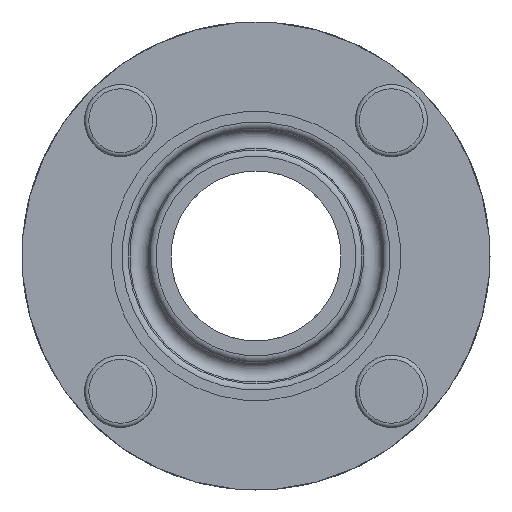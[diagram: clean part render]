
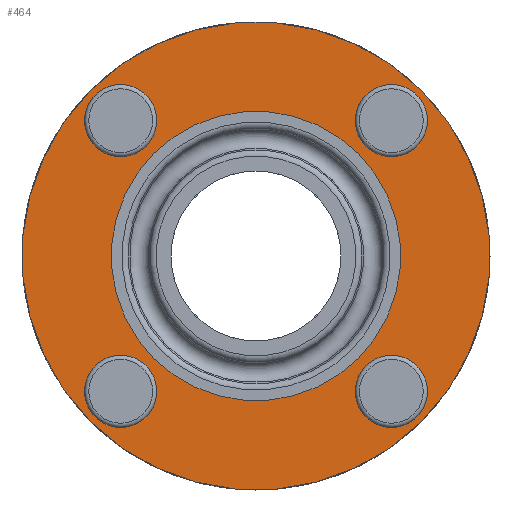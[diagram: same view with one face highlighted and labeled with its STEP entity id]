
A CAD part, front view. The second image highlights one B-rep face of the part: STEP entity #464.
In plain terms, the highlighted planar face has unit normal (0, -1, 0).
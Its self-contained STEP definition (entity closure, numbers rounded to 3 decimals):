
#158=FACE_BOUND('',#741,.T.);
#159=FACE_BOUND('',#742,.T.);
#160=FACE_BOUND('',#743,.T.);
#161=FACE_BOUND('',#744,.T.);
#162=FACE_BOUND('',#745,.T.);
#163=FACE_BOUND('',#746,.T.);
#464=ADVANCED_FACE('',(#158,#159,#160,#161,#162,#163),#568,.T.);
#568=PLANE('',#2146);
#741=EDGE_LOOP('',(#1137));
#742=EDGE_LOOP('',(#1138));
#743=EDGE_LOOP('',(#1139));
#744=EDGE_LOOP('',(#1140));
#745=EDGE_LOOP('',(#1141));
#746=EDGE_LOOP('',(#1142));
#1137=ORIENTED_EDGE('',*,*,#1705,.T.);
#1138=ORIENTED_EDGE('',*,*,#1706,.T.);
#1139=ORIENTED_EDGE('',*,*,#1707,.T.);
#1140=ORIENTED_EDGE('',*,*,#1708,.T.);
#1141=ORIENTED_EDGE('',*,*,#1709,.T.);
#1142=ORIENTED_EDGE('',*,*,#1704,.F.);
#1477=VERTEX_POINT('',#3389);
#1478=VERTEX_POINT('',#3392);
#1479=VERTEX_POINT('',#3394);
#1480=VERTEX_POINT('',#3396);
#1481=VERTEX_POINT('',#3398);
#1482=VERTEX_POINT('',#3400);
#1704=EDGE_CURVE('',#1477,#1477,#1895,.T.);
#1705=EDGE_CURVE('',#1478,#1478,#1896,.T.);
#1706=EDGE_CURVE('',#1479,#1479,#1897,.T.);
#1707=EDGE_CURVE('',#1480,#1480,#1898,.T.);
#1708=EDGE_CURVE('',#1481,#1481,#1899,.T.);
#1709=EDGE_CURVE('',#1482,#1482,#1900,.T.);
#1895=CIRCLE('',#2139,27.5);
#1896=CIRCLE('',#2141,4.25);
#1897=CIRCLE('',#2142,4.25);
#1898=CIRCLE('',#2143,4.25);
#1899=CIRCLE('',#2144,4.25);
#1900=CIRCLE('',#2145,14.);
#2139=AXIS2_PLACEMENT_3D('',#3388,#2656,#2657);
#2141=AXIS2_PLACEMENT_3D('',#3391,#2660,#2661);
#2142=AXIS2_PLACEMENT_3D('',#3393,#2662,#2663);
#2143=AXIS2_PLACEMENT_3D('',#3395,#2664,#2665);
#2144=AXIS2_PLACEMENT_3D('',#3397,#2666,#2667);
#2145=AXIS2_PLACEMENT_3D('',#3399,#2668,#2669);
#2146=AXIS2_PLACEMENT_3D('',#3401,#2670,#2671);
#2656=DIRECTION('',(0.,1.,0.));
#2657=DIRECTION('',(-0.707,0.,0.707));
#2660=DIRECTION('',(0.,1.,0.));
#2661=DIRECTION('',(0.,0.,-1.));
#2662=DIRECTION('',(0.,1.,0.));
#2663=DIRECTION('',(0.,0.,-1.));
#2664=DIRECTION('',(0.,1.,0.));
#2665=DIRECTION('',(0.,0.,-1.));
#2666=DIRECTION('',(0.,1.,0.));
#2667=DIRECTION('',(0.,0.,-1.));
#2668=DIRECTION('',(0.,1.,0.));
#2669=DIRECTION('',(0.707,0.,-0.707));
#2670=DIRECTION('',(0.,-1.,0.));
#2671=DIRECTION('',(0.707,0.,-0.707));
#3388=CARTESIAN_POINT('',(0.,-38.,0.));
#3389=CARTESIAN_POINT('',(-19.445,-38.,19.445));
#3391=CARTESIAN_POINT('',(-15.91,-38.,-15.91));
#3392=CARTESIAN_POINT('',(-15.91,-38.,-20.16));
#3393=CARTESIAN_POINT('',(-15.91,-38.,15.91));
#3394=CARTESIAN_POINT('',(-15.91,-38.,11.66));
#3395=CARTESIAN_POINT('',(15.91,-38.,-15.91));
#3396=CARTESIAN_POINT('',(15.91,-38.,-20.16));
#3397=CARTESIAN_POINT('',(15.91,-38.,15.91));
#3398=CARTESIAN_POINT('',(15.91,-38.,11.66));
#3399=CARTESIAN_POINT('',(0.,-38.,0.));
#3400=CARTESIAN_POINT('',(9.899,-38.,-9.899));
#3401=CARTESIAN_POINT('',(0.,-38.,0.));
